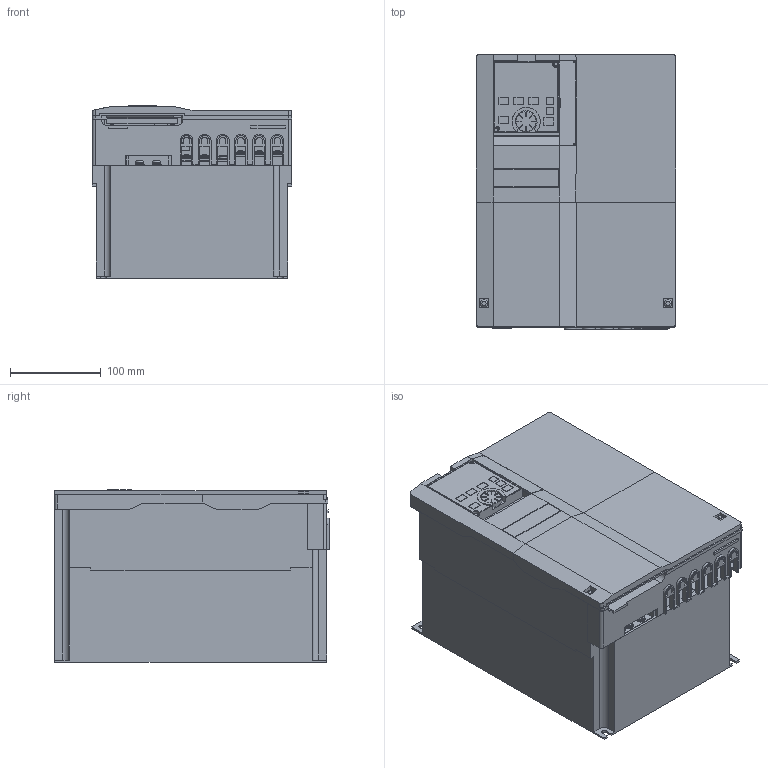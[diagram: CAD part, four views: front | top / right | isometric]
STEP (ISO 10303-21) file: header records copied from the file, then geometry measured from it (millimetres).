
FILE_DESCRIPTION((''),'2;1');
FILE_NAME('3D-INV-A8-01_06_ASM','2014-01-17T',('PZ79677'),(''),'PRO/ENGINEER BY PARAMETRIC TECHNOLOGY CORPORATION, 2011490','PRO/ENGINEER BY PARAMETRIC TECHNOLOGY CORPORATION, 2011490','');
FILE_SCHEMA(('CONFIG_CONTROL_DESIGN'));
Length unit declared in the file: millimetre
Products named in the file (21): 3D-BASE-A8-01_06; 3D-POWER-A8-01_06_ASM; 3D-FAN-80-A8; 3D-FAN_COV-A8-01_06; 3D-TE_NEJI-A8-M4X10-KAKU8_7; 3D-TE_NEJI-A8-M5X14-KAKU; 3D-SW-PW-P-NA-M5X0_8X12; 3D-DOT-P1_P-A8-01_06; 3D-DOT-R1-A8-01_06; 3D-DOT-S1-A8-01_06; 3D-TE-A8-01_06_ASM; 3D-TA-A8; 3D-A8-TA_ASM; 3D-SW-PW-P-M5X10-A8; 3D-SEN_COV-A8-01_06; 3D-COV_UPR-A8-01_06; 3D-DU_ASSY-A8; 3D-IF_COV-A80; 3D-COV_UPR-A8-01_06_ASM; 3D-COV_LWR-A8-01_06; 3D-INV-A8-01_06_ASM
Assembly tree (31 placements, depth 3):
  3D-INV-A8-01_06_ASM
    3D-POWER-A8-01_06_ASM
      3D-BASE-A8-01_06
    3D-FAN-80-A8  x2
    3D-FAN_COV-A8-01_06
    3D-TE-A8-01_06_ASM
      3D-TE_NEJI-A8-M4X10-KAKU8_7  x2
      3D-TE_NEJI-A8-M5X14-KAKU  x9
      3D-SW-PW-P-NA-M5X0_8X12
      3D-DOT-P1_P-A8-01_06
      3D-DOT-R1-A8-01_06
      3D-DOT-S1-A8-01_06
    3D-A8-TA_ASM
      3D-TA-A8
    3D-SW-PW-P-M5X10-A8  x2
    3D-SEN_COV-A8-01_06
    3D-COV_UPR-A8-01_06_ASM
      3D-COV_UPR-A8-01_06
      3D-DU_ASSY-A8
      3D-IF_COV-A80
    3D-COV_LWR-A8-01_06
Bounding box: 220 x 303 x 190 mm (x, y, z)
Volume: 9820619.2 mm3; surface area: 775764.2 mm2
Topology: 28 solids, 31 shells, 2229 faces, 5854 edges, 3836 vertices
Faces by surface type: plane 1656, cylinder 445, torus 50, cone 40, sphere 38
Entity records: 62141 total; most frequent: CARTESIAN_POINT 10836, ORIENTED_EDGE 10542, DIRECTION 10296, EDGE_CURVE 5271, VECTOR 4358, LINE 4358, VERTEX_POINT 3483, AXIS2_PLACEMENT_3D 2969
